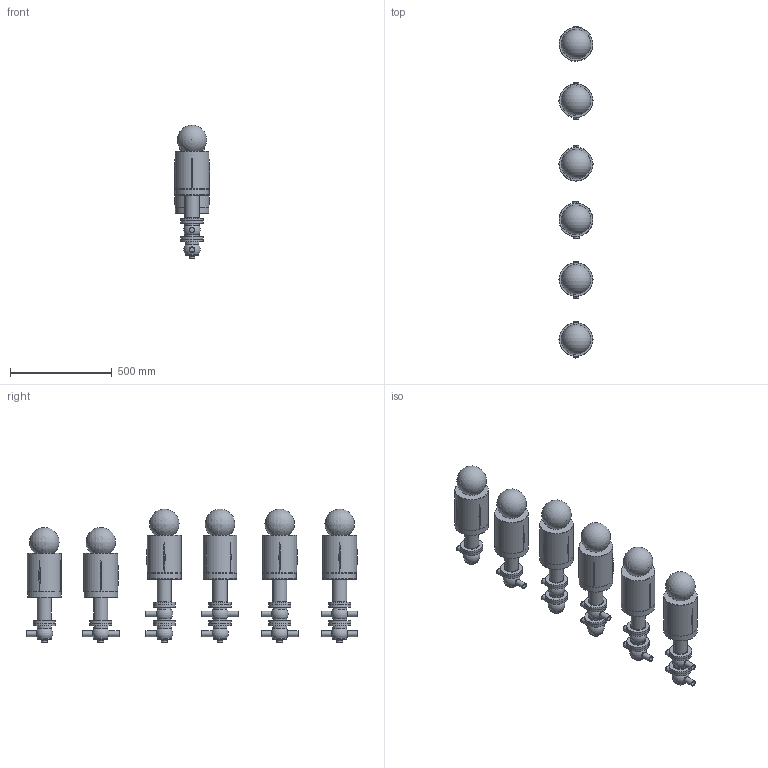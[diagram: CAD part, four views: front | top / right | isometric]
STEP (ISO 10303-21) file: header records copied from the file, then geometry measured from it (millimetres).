
FILE_DESCRIPTION(/* description */ (''),/* implementation_level */ '2;1');
FILE_NAME(/* name */ 'C:\Users\marz-m\Desktop\PDF\BBZQ 3D STEP\BBZQ-DN25-CIL.156.stp',/* time_stamp */ '2018-04-13T14:17:10+02:00',/* author */ ('marz-m'),/* organization */ (''),/* preprocessor_version */ 'ST-DEVELOPER v17',/* originating_system */ 'Autodesk Inventor 2018',/* authorisation */ '');
FILE_SCHEMA (('AUTOMOTIVE_DESIGN { 1 0 10303 214 3 1 1 }'));
Length unit declared in the file: millimetre
Products named in the file (8): BBZQ-CIL.156-DN25; COR-INF-L-BBZQ-DN028X2.5-SALD; COR-INF-T-BBZQ-DN028X2.5-SALD; assemblaggio dn40 per cil 108-156; CIL156; SAGOMA-GIOTTO-; CORPO-SUP-BBZQ-L-DN28X2.5-SALD; CORPO-SUP-BBZQ-T-DN28X2.5-SALD
Assembly tree (28 placements, depth 2):
  BBZQ-CIL.156-DN25
    COR-INF-L-BBZQ-DN028X2.5-SALD  x3
    COR-INF-T-BBZQ-DN028X2.5-SALD  x3
    assemblaggio dn40 per cil 108-156  x6
    CIL156  x6
    SAGOMA-GIOTTO-  x6
    CORPO-SUP-BBZQ-L-DN28X2.5-SALD  x2
    CORPO-SUP-BBZQ-T-DN28X2.5-SALD  x2
Bounding box: 172.04 x 1630.17 x 655.97 mm (x, y, z)
Volume: 45277532.5 mm3; surface area: 2214685.2 mm2
Topology: 28 solids, 28 shells, 380 faces, 918 edges, 672 vertices
Faces by surface type: cylinder 109, plane 106, cone 72, torus 38, sphere 31, bspline 24
Full cylindrical faces by diameter (mm): 20 x12, 23 x18, 28 x21, 68 x20, 69 x6, 109 x20, 164.5 x6, 166 x6
Entity records: 4070 total; most frequent: CARTESIAN_POINT 1078, DIRECTION 647, ORIENTED_EDGE 494, AXIS2_PLACEMENT_3D 303, EDGE_CURVE 247, VERTEX_POINT 182, CIRCLE 166, EDGE_LOOP 131
